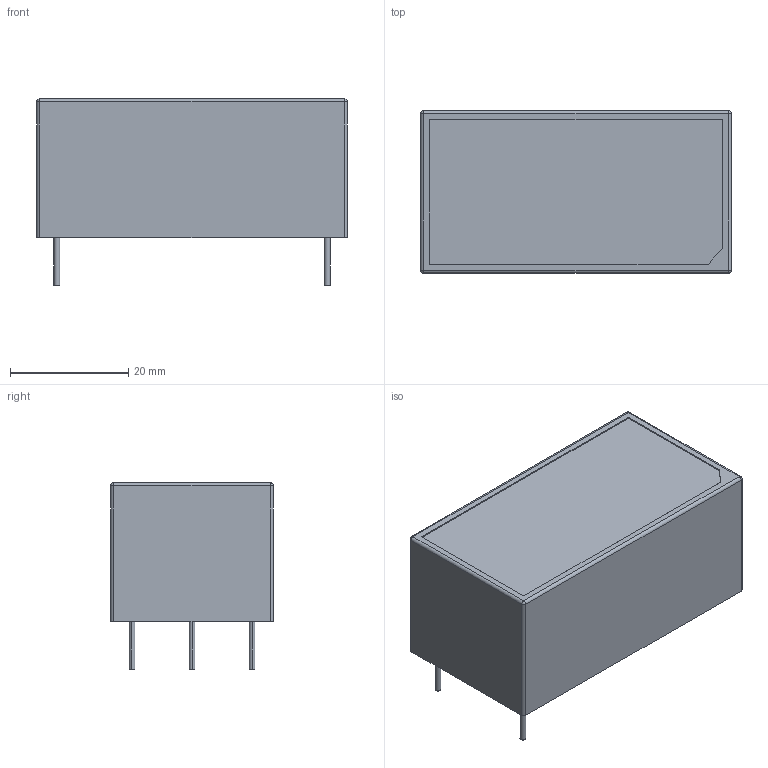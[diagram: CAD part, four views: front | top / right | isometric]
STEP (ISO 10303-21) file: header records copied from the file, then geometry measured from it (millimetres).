
FILE_DESCRIPTION((''),'2;1');
FILE_NAME('ASM0001_ASM','2016-02-02T',('arch'),(''),'PRO/ENGINEER BY PARAMETRIC TECHNOLOGY CORPORATION, 2008380','PRO/ENGINEER BY PARAMETRIC TECHNOLOGY CORPORATION, 2008380','');
FILE_SCHEMA(('AUTOMOTIVE_DESIGN { 1 2 10303 214 0 1 1 1 }'));
Length unit declared in the file: millimetre
Products named in the file (3): AFC20; M3_X_5-SPRING; ASM0001_ASM
Assembly tree (2 placements, depth 2):
  ASM0001_ASM
    AFC20
    M3_X_5-SPRING
Bounding box: 52.5 x 27.5 x 31.5 mm (x, y, z)
Volume: 33712.4 mm3; surface area: 6870.4 mm2
Topology: 2 solids, 2 shells, 55 faces, 113 edges, 70 vertices
Faces by surface type: cylinder 26, plane 21, sphere 4, cone 4
Entity records: 1986 total; most frequent: DIRECTION 289, CARTESIAN_POINT 248, ORIENTED_EDGE 226, AXIS2_PLACEMENT_3D 116, PRESENTATION_STYLE_ASSIGNMENT 115, STYLED_ITEM 115, CURVE_STYLE 113, EDGE_CURVE 113
